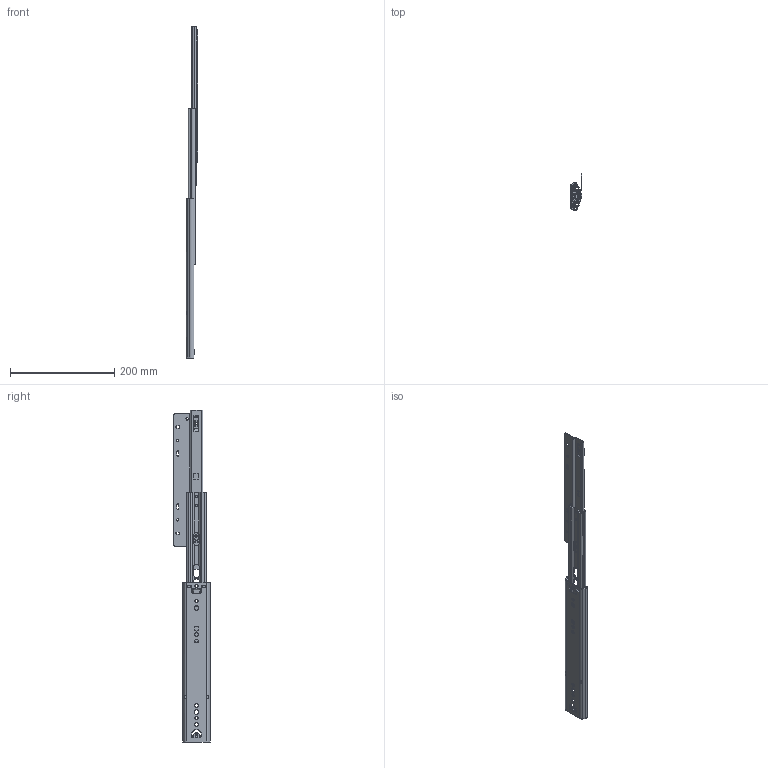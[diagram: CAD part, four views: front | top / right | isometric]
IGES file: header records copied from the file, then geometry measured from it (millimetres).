
Global section: file name: No Iges File Name specified; native system: Autodesk Inventor 2012; preprocessor: AutoDesk Inventor Iges Exporter R2012; author: HV83751; date: 20130708.083309; units: inch
Bounding box: 22.61 x 70.18 x 635.46 mm (x, y, z)
Surface area: 146905.9 mm2
Topology: 6 solids, 23 shells, 1344 faces, 3958 edges, 2545 vertices
Faces by surface type: plane 699, revolution 329, cylinder 273, bspline 34, torus 9
